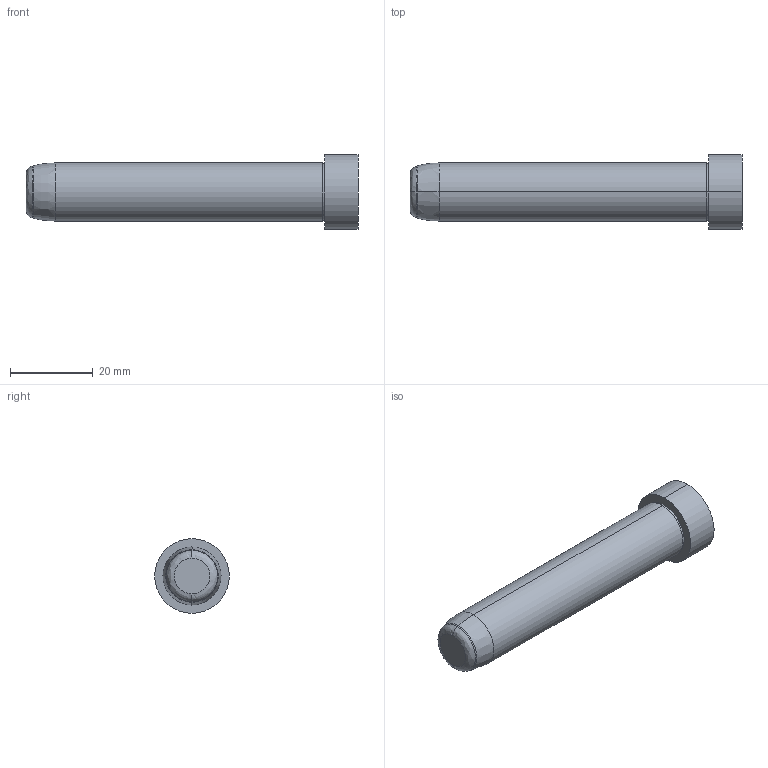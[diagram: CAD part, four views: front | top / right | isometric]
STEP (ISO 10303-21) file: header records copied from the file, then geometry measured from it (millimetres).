
FILE_DESCRIPTION (( 'STEP AP203' ), '1' );
FILE_NAME ('019 Colonne de Guidage.STEP', '2021-10-27T18:24:22', ( '' ), ( '' ), 'SwSTEP 2.0', 'SolidWorks 2019', '' );
FILE_SCHEMA (( 'CONFIG_CONTROL_DESIGN' ));
Length unit declared in the file: millimetre
Products named in the file (1): 019 Colonne de Guidage
Bounding box: 80 x 18 x 18 mm (x, y, z)
Volume: 12979.2 mm3; surface area: 4066.8 mm2
Topology: 1 solids, 1 shells, 16 faces, 31 edges, 19 vertices
Faces by surface type: cylinder 6, bspline 4, plane 4, cone 2
Entity records: 536 total; most frequent: CARTESIAN_POINT 136, DIRECTION 74, ORIENTED_EDGE 62, AXIS2_PLACEMENT_3D 33, EDGE_CURVE 31, CIRCLE 20, VERTEX_POINT 19, EDGE_LOOP 18
